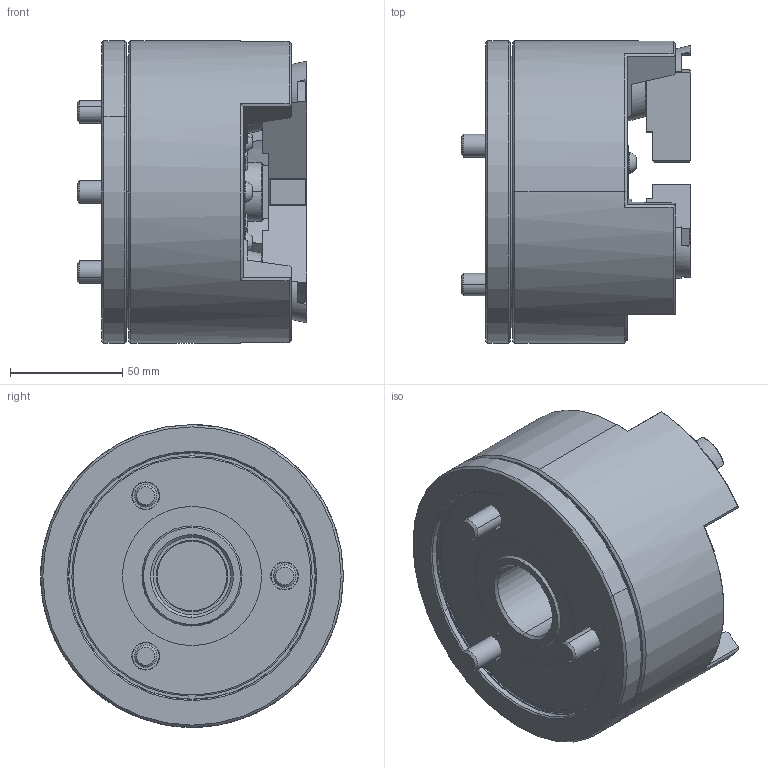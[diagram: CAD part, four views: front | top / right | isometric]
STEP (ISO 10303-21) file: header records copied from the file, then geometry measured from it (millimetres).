
FILE_DESCRIPTION (( 'STEP AP214' ), '1' );
FILE_NAME ('PUB205_UC.STEP', '2024-10-18T02:24:15', ( '' ), ( '' ), 'SwSTEP 2.0', 'SolidWorks 2022', '' );
FILE_SCHEMA (( 'AUTOMOTIVE_DESIGN' ));
Length unit declared in the file: millimetre
Products named in the file (4): 61P340355; PUB205_UC; DHP-61P298380-0dummy; 0030108020
Assembly tree (7 placements, depth 2):
  PUB205_UC
    61P340355  x3
    0030108020  x3
    DHP-61P298380-0dummy
Bounding box: 102.5 x 135 x 135 mm (x, y, z)
Volume: 912905.9 mm3; surface area: 115456 mm2
Topology: 8 solids, 9 shells, 933 faces, 2396 edges, 1536 vertices
Faces by surface type: plane 440, bspline 173, cone 170, cylinder 129, torus 19, sphere 2
Entity records: 37807 total; most frequent: CARTESIAN_POINT 18418, ORIENTED_EDGE 4356, DIRECTION 3266, EDGE_CURVE 2178, VERTEX_POINT 1410, LINE 1108, VECTOR 1108, AXIS2_PLACEMENT_3D 1079
